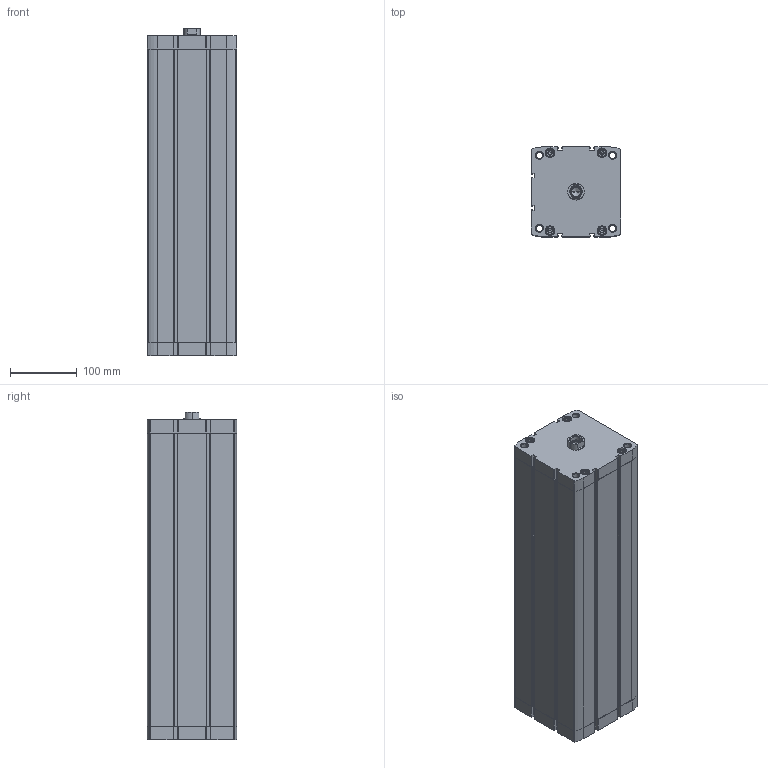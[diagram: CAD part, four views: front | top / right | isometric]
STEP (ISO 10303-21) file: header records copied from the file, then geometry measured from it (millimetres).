
FILE_DESCRIPTION (( 'STEP AP203' ), '1' );
FILE_NAME ('CCN125-400F.STEP', '2020-06-05T19:31:42', ( '' ), ( '' ), 'SwSTEP 2.0', 'SolidWorks 2019', '' );
FILE_SCHEMA (( 'CONFIG_CONTROL_DESIGN' ));
Length unit declared in the file: millimetre
Products named in the file (1): CCN125-400F
Bounding box: 134.6 x 134.6 x 492 mm (x, y, z)
Volume: 3622563.9 mm3; surface area: 659473.8 mm2
Topology: 2 solids, 2 shells, 535 faces, 1370 edges, 861 vertices
Faces by surface type: plane 267, cylinder 194, cone 74
Entity records: 17215 total; most frequent: CARTESIAN_POINT 3931, DIRECTION 2876, ORIENTED_EDGE 2704, EDGE_CURVE 1352, AXIS2_PLACEMENT_3D 1054, VERTEX_POINT 861, VECTOR 768, LINE 768
